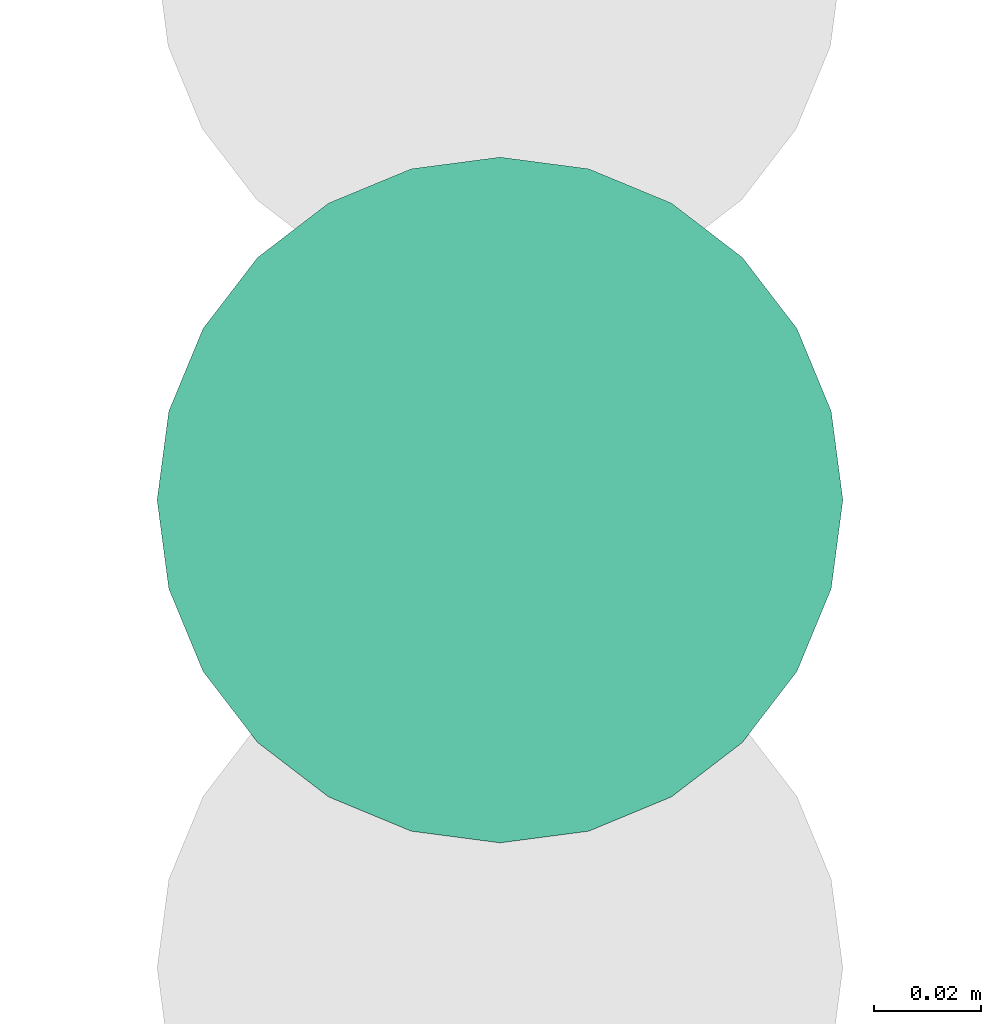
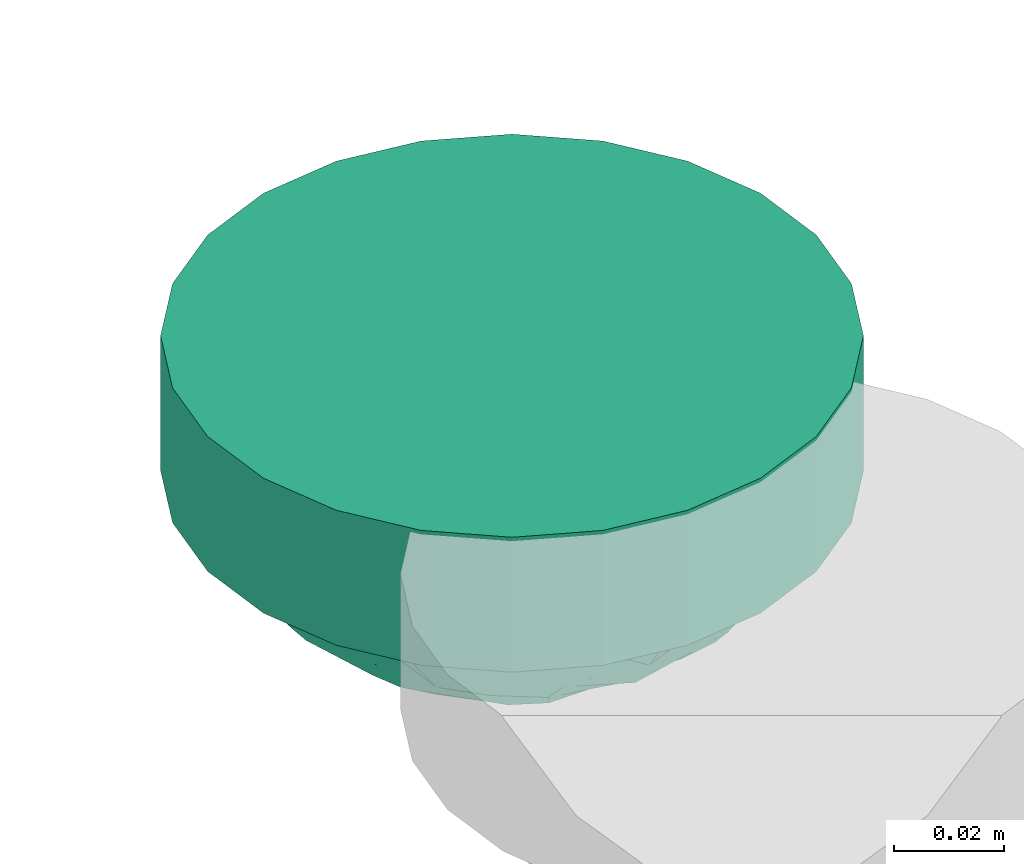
# One storey, part 140 of 153: 1 flow terminal.
"""IFC2X3 building model written with IfcOpenShell, lengths in metres."""

from ifc_helpers import new_model, entity, si_unit, converted_unit, derived_unit, direction, frame, origin, place, context, subcontext, project, spatial, faceted_brep, source, transform, mapped, type_object, type_shapes, element, save


model = new_model("IFC2X3")

# Units and contexts
model_context = context("Model", 3, precision=1e-05, world=origin(), true_north=direction((6.12303176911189e-17, 1.0)))
body_context = subcontext(model_context, "Body", "Model", "MODEL_VIEW")
ifc_project = project(units=[si_unit("LENGTHUNIT", "METRE"), si_unit("AREAUNIT", "SQUARE_METRE"), si_unit("VOLUMEUNIT", "CUBIC_METRE"), converted_unit("PLANEANGLEUNIT", "DEGREE", entity("IfcRatioMeasure", 0.0174532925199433), si_unit("PLANEANGLEUNIT", "RADIAN"), dimensions=[0, 0, 0, 0, 0, 0, 0]), si_unit("MASSUNIT", "GRAM", prefix="KILO"), derived_unit("MASSDENSITYUNIT", [(si_unit("MASSUNIT", "GRAM", prefix="KILO"), 1), (si_unit("LENGTHUNIT", "METRE"), -3)]), si_unit("TIMEUNIT", "SECOND"), si_unit("FREQUENCYUNIT", "HERTZ"), si_unit("THERMODYNAMICTEMPERATUREUNIT", "DEGREE_CELSIUS"), derived_unit("THERMALTRANSMITTANCEUNIT", [(si_unit("MASSUNIT", "GRAM", prefix="KILO"), 1), (si_unit("THERMODYNAMICTEMPERATUREUNIT", "KELVIN"), -1), (si_unit("TIMEUNIT", "SECOND"), -3)]), derived_unit("VOLUMETRICFLOWRATEUNIT", [(si_unit("LENGTHUNIT", "METRE"), 3), (si_unit("TIMEUNIT", "SECOND"), -1)]), si_unit("ELECTRICCURRENTUNIT", "AMPERE"), si_unit("ELECTRICVOLTAGEUNIT", "VOLT"), si_unit("POWERUNIT", "WATT"), si_unit("FORCEUNIT", "NEWTON"), si_unit("ILLUMINANCEUNIT", "LUX"), si_unit("LUMINOUSFLUXUNIT", "LUMEN"), si_unit("LUMINOUSINTENSITYUNIT", "CANDELA"), derived_unit("USERDEFINED", [(si_unit("MASSUNIT", "GRAM", prefix="KILO"), -1), (si_unit("LENGTHUNIT", "METRE"), -2), (si_unit("TIMEUNIT", "SECOND"), 3), (si_unit("LUMINOUSFLUXUNIT", "LUMEN"), 1)]), derived_unit("LINEARVELOCITYUNIT", [(si_unit("LENGTHUNIT", "METRE"), 1), (si_unit("TIMEUNIT", "SECOND"), -1)]), si_unit("PRESSUREUNIT", "PASCAL"), derived_unit("USERDEFINED", [(si_unit("LENGTHUNIT", "METRE"), -2), (si_unit("MASSUNIT", "GRAM", prefix="KILO"), 1), (si_unit("TIMEUNIT", "SECOND"), -2)])], contexts=[model_context])

# Site, building, storey
site_placement = place(None, origin())
site = spatial("IfcSite", under=ifc_project, at=site_placement, Name="Default", CompositionType="ELEMENT")
building_placement = place(site_placement, origin())
building = spatial("IfcBuilding", under=site, at=building_placement, CompositionType="ELEMENT")
storey_placement = place(building_placement, frame((0.0, 0.0, -4.62)))
storey = spatial("IfcBuildingStorey", under=building, at=storey_placement, Name="S02", CompositionType="ELEMENT", Elevation=-4.62)

# Flow terminal
light_fixture_type = type_object("IfcLightFixtureType", Name="Détecteur 360°", PredefinedType="NOTDEFINED")
shared_shape = source(origin(), body_context, "Body", "Brep", [
    faceted_brep([(-0.0175153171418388, 0.0435914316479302, 0.0478512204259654), (0.0, 0.034524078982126, 0.0563702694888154), (0.0, 0.0397165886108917, 0.0531256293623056), (0.0, -0.00603476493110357, 0.0659648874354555), (0.0, 0.0, 0.0669999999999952), (-0.0194029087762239, 0.000878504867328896, 0.0644483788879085), (-0.0269980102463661, 0.0195753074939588, 0.0584711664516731), (-0.0366619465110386, 0.0127227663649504, 0.0549213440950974), (-0.0174057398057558, 0.0159851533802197, 0.0630502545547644), (-0.0276843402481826, 0.0401006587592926, 0.0459804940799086), (-0.0359767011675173, 0.0348394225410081, 0.0444249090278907), (-0.0202403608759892, 0.0335607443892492, 0.054639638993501), (-0.0256912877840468, 0.0533485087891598, 0.0299999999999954), (-0.0172617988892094, 0.0486391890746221, 0.042533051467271), (-0.0133088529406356, 0.0517577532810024, 0.0400582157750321), (-0.0462941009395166, 0.0369183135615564, 0.0299999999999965), (-0.0186245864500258, 0.0267295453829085, 0.0589100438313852), (0.0, 0.0241390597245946, 0.0628595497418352), (-0.0139070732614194, 0.0374370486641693, 0.0540817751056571), (0.0, -0.0397165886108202, 0.0531256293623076), (-0.0172618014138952, -0.0486391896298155, 0.0425330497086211), (0.0, -0.0449090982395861, 0.049880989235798), (-0.0353547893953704, -0.0284533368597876, 0.0494330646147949), (-0.0202403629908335, -0.0335607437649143, 0.054639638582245), (-0.0186245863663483, -0.0267295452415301, 0.0589100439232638), (-0.0191783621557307, -0.0150189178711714, 0.0627751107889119), (-0.0249385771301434, -0.0204731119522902, 0.0590841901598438), (0.0, -0.0120695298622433, 0.0649297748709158), (-0.0453471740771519, 0.0286501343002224, 0.0397747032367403), (-0.052010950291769, 0.0250471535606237, 0.029999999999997), (-0.0465404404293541, 0.0196510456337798, 0.0438984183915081), (-0.0365036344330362, 0.0226255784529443, 0.0516441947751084), (-0.0276843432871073, -0.0401006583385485, 0.0459804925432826), (-0.0359926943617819, -0.0451334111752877, 0.0299999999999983), (-0.0175153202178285, -0.0435914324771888, 0.0478512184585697), (0.0, 0.049890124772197, 0.0429575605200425), (0.0, 0.0545512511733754, 0.0364787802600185), (0.0, 0.0592123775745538, 0.0299999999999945), (-0.00849704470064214, 0.0572729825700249, 0.0299999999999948), (-0.0169940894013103, 0.055333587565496, 0.0299999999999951), (-0.035976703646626, -0.0348394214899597, 0.0444249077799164), (-0.0308419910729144, -0.0492409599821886, 0.0299999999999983), (-0.025691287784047, -0.0533485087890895, 0.0299999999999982), (-0.0130265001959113, -0.0514867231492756, 0.040526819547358), (0.0, -0.0498901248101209, 0.0429575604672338), (-0.0169940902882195, -0.0553335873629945, 0.029999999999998), (-0.0353547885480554, 0.0284533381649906, 0.0494330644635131), (0.0, -0.0181042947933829, 0.0638946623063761), (-0.036659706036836, 0.00328672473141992, 0.0563153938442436), (-0.0485435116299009, 0.009089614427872, 0.0452357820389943), (-0.0473669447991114, 0.00128092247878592, 0.0474310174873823), (0.0, 0.00603476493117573, 0.0659648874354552), (-0.0226425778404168, 0.0107553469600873, 0.0624973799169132), (-0.0139070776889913, -0.0374370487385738, 0.0540817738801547), (0.0, -0.0293315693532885, 0.0596149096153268), (-0.0453471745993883, -0.0286501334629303, 0.0397747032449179), (-0.0449600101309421, -0.018422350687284, 0.0461366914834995), (-0.0577277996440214, -0.0131759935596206, 0.0299999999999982), (-0.0476906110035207, -0.00670602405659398, 0.0466053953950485), (0.0, 0.0449090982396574, 0.0498809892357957), (-0.0308419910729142, 0.049240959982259, 0.0299999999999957), (-0.0359926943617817, 0.0451334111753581, 0.029999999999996), (0.0, -0.0345240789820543, 0.0563702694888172), (-0.0462941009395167, -0.0369183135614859, 0.0299999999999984), (-0.0411433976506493, -0.0410258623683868, 0.0299999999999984), (-0.0491525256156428, 0.03098273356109, 0.0299999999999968), (-0.0577277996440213, 0.0131759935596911, 0.0299999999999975), (0.0, 0.018104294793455, 0.0638946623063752), (-0.0377433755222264, -0.00448382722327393, 0.0554913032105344), (-0.0577277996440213, 0.00658799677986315, 0.0299999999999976), (-0.0577277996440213, -0.00658799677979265, 0.029999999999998), (-0.0577277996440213, 0.0, 0.0299999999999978), (-0.0385149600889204, -0.012484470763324, 0.0536578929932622), (-0.0491525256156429, -0.0309827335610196, 0.0299999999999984), (-0.0548693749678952, -0.0191115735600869, 0.0299999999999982), (0.0, -0.0241390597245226, 0.0628595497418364), (-0.0146256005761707, -0.0100436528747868, 0.0649170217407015), (-0.0271766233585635, -0.00920278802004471, 0.0609170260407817), (0.0, 0.0120695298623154, 0.0649297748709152), (-0.0520109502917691, -0.0250471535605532, 0.0299999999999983), (-0.0411433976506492, 0.0410258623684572, 0.0299999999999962), (-0.0548693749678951, 0.0191115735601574, 0.0299999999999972), (0.0, 0.0293315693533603, 0.0596149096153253), (-0.0127455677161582, -0.0563032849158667, 0.0299999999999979), (-0.00849704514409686, -0.057272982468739, 0.0299999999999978), (0.0, -0.0592123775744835, 0.0299999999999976), (0.0, -0.0545512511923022, 0.0364787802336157), (-0.0213426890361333, -0.054341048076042, 0.0299999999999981), (0.0175153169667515, -0.0435914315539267, 0.0478512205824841), (0.0194029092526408, -0.000878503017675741, 0.0644483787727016), (0.0269980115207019, -0.0195753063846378, 0.0584711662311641), (0.0366619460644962, -0.012722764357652, 0.0549213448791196), (0.0174057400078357, -0.0159851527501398, 0.0630502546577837), (0.0276843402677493, -0.0401006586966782, 0.0459804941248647), (0.0359767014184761, -0.0348394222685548, 0.0444249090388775), (0.0202403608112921, -0.0335607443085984, 0.0546396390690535), (0.0256912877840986, -0.0533485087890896, 0.0299999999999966), (0.0172617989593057, -0.0486391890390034, 0.0425330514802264), (0.0133088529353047, -0.0517577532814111, 0.0400582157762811), (0.0462941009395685, -0.0369183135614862, 0.0299999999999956), (0.00849704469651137, -0.0572729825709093, 0.0299999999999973), (0.0169940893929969, -0.0553335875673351, 0.029999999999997), (0.0308419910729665, 0.0492409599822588, 0.0299999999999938), (0.025691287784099, 0.0533485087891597, 0.0299999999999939), (0.0172617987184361, 0.0486391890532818, 0.0425330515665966), (0.0175153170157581, 0.0435914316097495, 0.0478512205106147), (0.0353547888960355, 0.0284533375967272, 0.0494330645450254), (0.0202403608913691, 0.03356074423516, 0.0546396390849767), (0.0186245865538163, 0.0267295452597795, 0.0589100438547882), (0.0191783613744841, 0.0150189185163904, 0.0627751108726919), (0.0249385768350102, 0.0204731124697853, 0.0590841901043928), (0.0520109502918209, -0.0250471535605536, 0.0299999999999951), (0.0548693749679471, -0.0191115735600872, 0.0299999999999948), (0.0577277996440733, -0.0131759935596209, 0.0299999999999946), (0.0465404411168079, -0.0196510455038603, 0.0438984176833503), (0.018624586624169, -0.0267295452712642, 0.0589100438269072), (0.0365036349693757, -0.0226255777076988, 0.0516441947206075), (0.0276843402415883, 0.0401006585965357, 0.0459804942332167), (0.0359926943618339, 0.0451334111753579, 0.0299999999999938), (0.0139070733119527, -0.0374370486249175, 0.0540817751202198), (0.0359767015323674, 0.0348394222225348, 0.044424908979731), (0.0226425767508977, -0.0107553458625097, 0.0624973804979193), (0.0130264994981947, 0.0514867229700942, 0.0405268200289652), (0.0169940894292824, 0.0553335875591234, 0.0299999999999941), (0.0353547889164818, -0.0284533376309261, 0.0494330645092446), (0.0453471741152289, -0.0286501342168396, 0.039774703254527), (0.0366597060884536, -0.00328672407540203, 0.0563153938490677), (0.0485435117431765, -0.00908961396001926, 0.0452357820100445), (0.0473669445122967, -0.00128092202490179, 0.0474310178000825), (0.0139070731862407, 0.0374370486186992, 0.0540817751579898), (0.0453471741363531, 0.0286501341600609, 0.039774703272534), (0.0449600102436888, 0.018422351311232, 0.0461366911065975), (0.0577277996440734, 0.0131759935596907, 0.0299999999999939), (0.0476906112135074, 0.00670602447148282, 0.0466053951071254), (0.0308419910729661, -0.0492409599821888, 0.0299999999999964), (0.0359926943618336, -0.0451334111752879, 0.0299999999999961), (0.0462941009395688, 0.0369183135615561, 0.0299999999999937), (0.0411433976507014, 0.041025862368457, 0.0299999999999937), (0.0491525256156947, -0.0309827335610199, 0.0299999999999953), (0.0377433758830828, 0.00448382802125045, 0.0554913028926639), (0.0577277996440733, -0.00658799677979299, 0.0299999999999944), (0.0577277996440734, 0.00658799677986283, 0.0299999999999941), (0.0577277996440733, 0.0, 0.0299999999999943), (0.0385149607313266, 0.0124844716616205, 0.0536578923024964), (0.049152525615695, 0.0309827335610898, 0.0299999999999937), (0.0548693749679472, 0.0191115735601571, 0.0299999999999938), (0.0146256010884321, 0.0100436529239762, 0.0649170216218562), (0.0271766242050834, 0.00920278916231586, 0.0609170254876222), (0.0520109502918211, 0.0250471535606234, 0.0299999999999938), (0.041143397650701, -0.0410258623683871, 0.0299999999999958), (0.0127455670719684, 0.056303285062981, 0.0299999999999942), (0.0084970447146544, 0.0572729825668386, 0.0299999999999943), (0.0213426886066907, 0.0543410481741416, 0.029999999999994), (0.0, 0.0, 0.0299999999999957)], [[[0, 1, 2]], [[3, 4, 5]], [[6, 7, 8]], [[9, 10, 11]], [[12, 13, 14]], [[9, 15, 10]], [[16, 17, 11]], [[9, 11, 18]], [[19, 20, 21]], [[22, 23, 24]], [[25, 26, 27]], [[28, 29, 30]], [[16, 31, 6]], [[32, 33, 34]], [[35, 36, 37, 38, 39]], [[22, 40, 23]], [[41, 42, 20]], [[20, 43, 21]], [[44, 43, 45]], [[19, 34, 20]], [[46, 10, 28]], [[47, 26, 24]], [[48, 49, 50]], [[51, 52, 5]], [[23, 53, 54]], [[55, 22, 56]], [[57, 56, 58]], [[2, 59, 13]], [[0, 2, 13]], [[13, 60, 0]], [[1, 0, 18]], [[61, 9, 0]], [[19, 62, 34]], [[33, 41, 34]], [[63, 64, 33, 32]], [[34, 41, 20]], [[32, 34, 53]], [[31, 28, 30]], [[15, 65, 10]], [[30, 66, 49]], [[67, 16, 6]], [[52, 8, 7]], [[7, 31, 30]], [[68, 50, 58]], [[48, 50, 68]], [[49, 69, 50]], [[70, 57, 58, 71]], [[52, 48, 5]], [[22, 26, 56]], [[68, 58, 72]], [[72, 56, 26]], [[73, 40, 55]], [[56, 74, 55]], [[24, 75, 47]], [[5, 4, 51]], [[49, 48, 7]], [[5, 76, 3]], [[77, 5, 68]], [[51, 78, 52]], [[47, 27, 26]], [[25, 27, 76]], [[75, 24, 23]], [[22, 24, 26]], [[53, 62, 54]], [[40, 32, 23]], [[32, 40, 63]], [[73, 63, 40]], [[79, 73, 55, 74]], [[26, 25, 72]], [[22, 55, 40]], [[54, 75, 23]], [[17, 16, 67]], [[67, 8, 78]], [[11, 10, 46]], [[16, 11, 46]], [[52, 7, 48]], [[65, 29, 28]], [[9, 61, 80, 15]], [[81, 66, 30, 29]], [[65, 28, 10]], [[31, 46, 28]], [[1, 18, 82]], [[11, 17, 82]], [[49, 7, 30]], [[35, 39, 14]], [[14, 13, 59]], [[83, 84, 85, 86, 44, 45]], [[20, 42, 43]], [[43, 42, 87, 45]], [[62, 53, 34]], [[32, 53, 23]], [[82, 18, 11]], [[9, 18, 0]], [[12, 14, 39]], [[14, 59, 35]], [[61, 0, 60]], [[13, 12, 60]], [[46, 31, 16]], [[6, 31, 7]], [[69, 71, 50]], [[49, 66, 69]], [[58, 50, 71]], [[48, 68, 5]], [[77, 68, 72]], [[25, 77, 72]], [[72, 58, 56]], [[56, 57, 74]], [[77, 25, 76]], [[77, 76, 5]], [[3, 76, 27]], [[6, 8, 67]], [[8, 52, 78]], [[21, 43, 44]], [[88, 62, 19]], [[51, 4, 89]], [[90, 91, 92]], [[93, 94, 95]], [[96, 97, 98]], [[93, 99, 94]], [[44, 86, 85, 100, 101]], [[102, 103, 104]], [[2, 105, 104]], [[106, 107, 108]], [[109, 110, 78]], [[111, 112, 113, 114]], [[115, 116, 90]], [[117, 118, 105]], [[93, 95, 119]], [[106, 120, 107]], [[3, 121, 89]], [[35, 122, 123]], [[104, 122, 59]], [[115, 75, 95]], [[124, 94, 125]], [[67, 110, 108]], [[126, 127, 128]], [[2, 104, 59]], [[107, 129, 82]], [[130, 106, 131]], [[132, 131, 133]], [[19, 21, 97]], [[88, 19, 97]], [[97, 134, 88]], [[62, 88, 119]], [[135, 93, 88]], [[2, 1, 105]], [[118, 102, 105]], [[136, 137, 118, 117]], [[105, 102, 104]], [[117, 105, 129]], [[116, 125, 114]], [[99, 138, 94]], [[114, 113, 127]], [[47, 115, 90]], [[27, 92, 121]], [[91, 116, 114]], [[139, 128, 133]], [[126, 128, 139]], [[127, 140, 128]], [[141, 132, 133, 142]], [[121, 126, 89]], [[106, 110, 131]], [[139, 133, 143]], [[143, 131, 110]], [[144, 120, 130]], [[131, 145, 130]], [[108, 17, 67]], [[89, 4, 3]], [[127, 126, 91]], [[89, 146, 51]], [[147, 89, 139]], [[3, 27, 121]], [[67, 78, 110]], [[109, 78, 146]], [[17, 108, 107]], [[106, 108, 110]], [[129, 1, 82]], [[120, 117, 107]], [[117, 120, 136]], [[144, 136, 120]], [[148, 144, 130, 145]], [[110, 109, 143]], [[106, 130, 120]], [[82, 17, 107]], [[75, 115, 47]], [[47, 92, 27]], [[95, 94, 124]], [[115, 95, 124]], [[121, 91, 126]], [[138, 111, 125]], [[93, 135, 149, 99]], [[125, 111, 114]], [[138, 125, 94]], [[116, 124, 125]], [[62, 119, 54]], [[95, 75, 54]], [[127, 91, 114]], [[44, 101, 98]], [[98, 97, 21]], [[150, 151, 37, 36, 35, 123]], [[104, 103, 122]], [[122, 103, 152, 123]], [[1, 129, 105]], [[117, 129, 107]], [[54, 119, 95]], [[93, 119, 88]], [[96, 98, 101]], [[98, 21, 44]], [[135, 88, 134]], [[97, 96, 134]], [[124, 116, 115]], [[90, 116, 91]], [[140, 142, 128]], [[127, 113, 140]], [[133, 128, 142]], [[126, 139, 89]], [[147, 139, 143]], [[109, 147, 143]], [[143, 133, 131]], [[131, 132, 145]], [[147, 109, 146]], [[147, 146, 89]], [[51, 146, 78]], [[121, 92, 91]], [[90, 92, 47]], [[59, 122, 35]], [[153, 42, 41]], [[153, 41, 33]], [[153, 33, 64]], [[153, 64, 63]], [[153, 63, 73]], [[153, 73, 79]], [[153, 79, 74]], [[153, 74, 57]], [[153, 57, 70]], [[153, 87, 42]], [[153, 45, 87]], [[153, 83, 45]], [[153, 84, 83]], [[153, 85, 84]], [[153, 70, 71]], [[153, 71, 69]], [[153, 69, 66]], [[153, 66, 81]], [[153, 81, 29]], [[153, 29, 65]], [[153, 65, 15]], [[153, 15, 80]], [[153, 80, 61]], [[153, 61, 60]], [[153, 60, 12]], [[153, 12, 39]], [[153, 39, 38]], [[153, 38, 37]], [[153, 37, 151]], [[153, 100, 85]], [[153, 101, 100]], [[153, 96, 101]], [[153, 134, 96]], [[153, 135, 134]], [[153, 149, 135]], [[153, 99, 149]], [[153, 138, 99]], [[153, 111, 138]], [[153, 112, 111]], [[153, 113, 112]], [[153, 151, 150]], [[153, 150, 123]], [[153, 123, 152]], [[153, 152, 103]], [[153, 103, 102]], [[153, 102, 118]], [[153, 118, 137]], [[153, 137, 136]], [[153, 136, 144]], [[153, 144, 148]], [[153, 148, 145]], [[153, 145, 132]], [[153, 132, 141]], [[153, 141, 142]], [[153, 142, 140]], [[153, 140, 113]]]),
    faceted_brep([(0.0452548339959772, 0.0452548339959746, 0.0299999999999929), (0.0320000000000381, 0.0554256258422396, 0.0299999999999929), (0.0165644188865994, 0.0618192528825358, 0.029999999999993), (0.0, 0.0640000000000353, 0.0299999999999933), (-0.0165644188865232, 0.0618192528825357, 0.0299999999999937), (-0.0319999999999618, 0.0554256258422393, 0.0299999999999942), (-0.0452548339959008, 0.0452548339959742, 0.0299999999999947), (-0.0554256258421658, 0.0320000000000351, 0.0299999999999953), (-0.061819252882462, 0.0165644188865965, 0.0299999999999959), (-0.0639999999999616, 0.0, 0.0299999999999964), (-0.0618192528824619, -0.0165644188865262, 0.0299999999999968), (-0.0554256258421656, -0.0319999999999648, 0.0299999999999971), (-0.0452548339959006, -0.0452548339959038, 0.0299999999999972), (-0.0319999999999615, -0.0554256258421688, 0.0299999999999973), (-0.0165644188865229, -0.061819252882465, 0.0299999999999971), (0.0, -0.0639999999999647, 0.0299999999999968), (0.0165644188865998, -0.061819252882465, 0.0299999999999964), (0.0320000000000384, -0.0554256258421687, 0.0299999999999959), (0.0452548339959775, -0.0452548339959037, 0.0299999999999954), (0.0554256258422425, -0.0319999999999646, 0.0299999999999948), (0.0618192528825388, -0.016564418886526, 0.0299999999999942), (0.0640000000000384, 0.0, 0.0299999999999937), (0.0618192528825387, 0.016564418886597, 0.0299999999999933), (0.0554256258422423, 0.0320000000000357, 0.029999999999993), (0.0, -0.0639999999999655, 0.0), (-0.0165644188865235, -0.0618192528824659, 0.0), (-0.0319999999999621, -0.0554256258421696, 0.0), (-0.0452548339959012, -0.0452548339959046, 0.0), (-0.0554256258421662, -0.0319999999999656, 0.0), (-0.0618192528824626, -0.016564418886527, 0.0), (-0.0639999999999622, 0.0, 0.0), (-0.0618192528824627, 0.0165644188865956, 0.0), (-0.0554256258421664, 0.0320000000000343, 0.0), (-0.0452548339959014, 0.0452548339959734, 0.0), (-0.0319999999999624, 0.0554256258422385, 0.0), (-0.0165644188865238, 0.0618192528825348, 0.0), (0.0, 0.0640000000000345, 0.0), (0.0165644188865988, 0.061819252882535, 0.0), (0.0320000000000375, 0.0554256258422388, 0.0), (0.0452548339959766, 0.0452548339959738, 0.0), (0.0554256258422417, 0.0320000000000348, 0.0), (0.061819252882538, 0.0165644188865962, 0.0), (0.0640000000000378, 0.0, 0.0), (0.0618192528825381, -0.0165644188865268, 0.0), (0.0554256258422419, -0.0319999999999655, 0.0), (0.0452548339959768, -0.0452548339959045, 0.0), (0.0320000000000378, -0.0554256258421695, 0.0), (0.0165644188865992, -0.0618192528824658, 0.0)], [[[0, 1, 2, 3, 4, 5, 6, 7, 8, 9, 10, 11, 12, 13, 14, 15, 16, 17, 18, 19, 20, 21, 22, 23]], [[24, 25, 26, 27, 28, 29, 30, 31, 32, 33, 34, 35, 36, 37, 38, 39, 40, 41, 42, 43, 44, 45, 46, 47]], [[30, 9, 8, 31]], [[31, 8, 7, 32]], [[34, 33, 6, 5]], [[6, 33, 32, 7]], [[35, 34, 5, 4]], [[35, 4, 3, 36]], [[36, 3, 2, 37]], [[37, 2, 1, 38]], [[40, 39, 0, 23]], [[0, 39, 38, 1]], [[41, 40, 23, 22]], [[41, 22, 21, 42]], [[42, 21, 20, 43]], [[43, 20, 19, 44]], [[46, 45, 18, 17]], [[18, 45, 44, 19]], [[47, 46, 17, 16]], [[47, 16, 15, 24]], [[24, 15, 14, 25]], [[25, 14, 13, 26]], [[10, 9, 30, 29]], [[26, 13, 12, 27]], [[12, 11, 28, 27]], [[11, 10, 29, 28]]]),
])
type_shapes(light_fixture_type, [shared_shape])
flow_terminal_placement = place(storey_placement, frame((57.489877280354, -183.913400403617, 4.62), z_axis=(0.0, 0.0, -1.0), x_axis=(1.0, 0.0, 0.0)))
element("IfcFlowTerminal", 1, at=flow_terminal_placement, inside=storey, type_object=light_fixture_type, Name="INT - Détecteur 360°:Détecteur 360°", ObjectType="INT - Détecteur 360°:Détecteur 360°", context=body_context, shape_type="MappedRepresentation", body=[
    mapped(shared_shape, transform((0.0, 0.0, 0.0), scale=1.0)),
])

save(model, "model.ifc")
